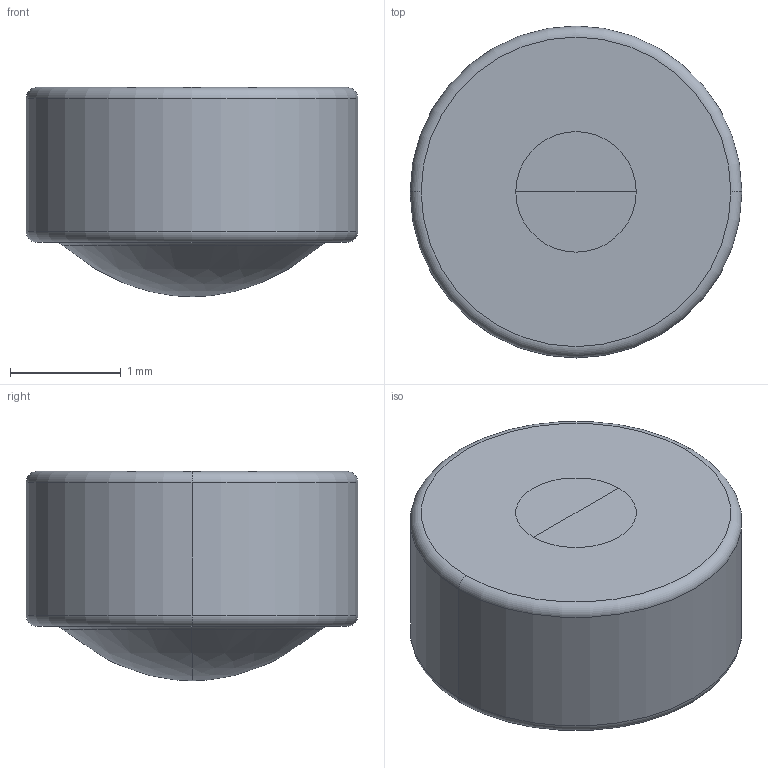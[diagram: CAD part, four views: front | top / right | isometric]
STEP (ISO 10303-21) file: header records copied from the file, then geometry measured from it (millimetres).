
FILE_DESCRIPTION((''),'2;1');
FILE_NAME('355151','2025-06-08T14:43:07',('admin'),('LIGHTPATH'),'CREO PARAMETRIC BY PTC INC, 2024063','CREO PARAMETRIC BY PTC INC, 2024063','');
FILE_SCHEMA(('CONFIG_CONTROL_DESIGN'));
Length unit declared in the file: millimetre
Products named in the file (1): 355151
Bounding box: 3 x 3 x 1.89 mm (x, y, z)
Volume: 11 mm3; surface area: 27.2 mm2
Topology: 1 solids, 1 shells, 14 faces, 30 edges, 16 vertices
Faces by surface type: torus 6, revolution 4, plane 2, cylinder 2
Entity records: 663 total; most frequent: CARTESIAN_POINT 327, DIRECTION 68, ORIENTED_EDGE 52, AXIS2_PLACEMENT_3D 30, EDGE_CURVE 26, CIRCLE 20, VERTEX_POINT 16, EDGE_LOOP 16
